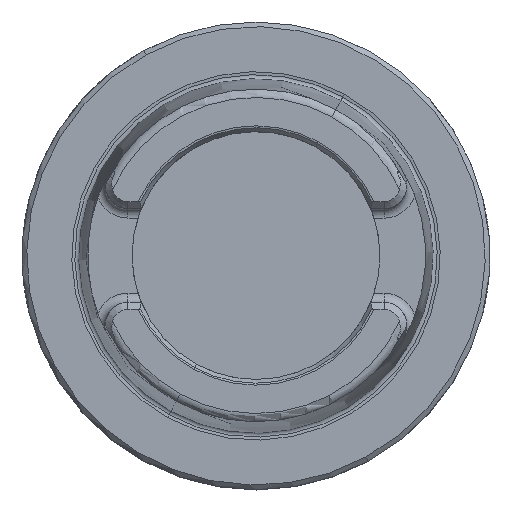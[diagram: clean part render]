
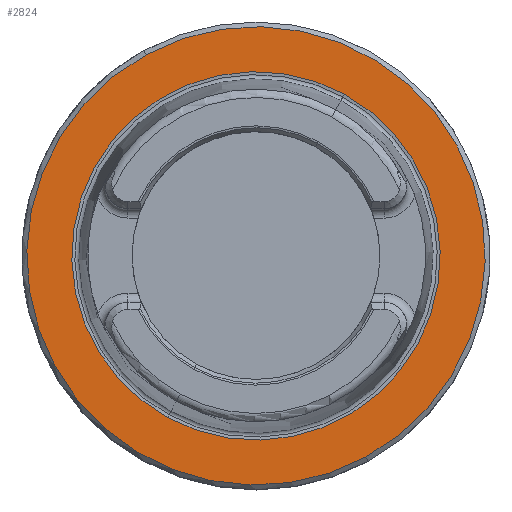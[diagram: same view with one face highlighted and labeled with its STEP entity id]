
A CAD part, top view. The second image highlights one B-rep face of the part: STEP entity #2824.
In plain terms, the highlighted planar face has unit normal (0, 0, 1).
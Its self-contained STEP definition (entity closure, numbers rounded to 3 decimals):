
#2754=AXIS2_PLACEMENT_3D('Circle Axis2P3D',#2752,#2753,$) ;
#2774=AXIS2_PLACEMENT_3D('Circle Axis2P3D',#2772,#2773,$) ;
#2800=AXIS2_PLACEMENT_3D('Plane Axis2P3D',#2797,#2798,#2799) ;
#2808=AXIS2_PLACEMENT_3D('Circle Axis2P3D',#2806,#2807,$) ;
#2817=AXIS2_PLACEMENT_3D('Circle Axis2P3D',#2815,#2816,$) ;
#2749=CARTESIAN_POINT('Vertex',(23.492,-43.002,0.)) ;
#2752=CARTESIAN_POINT('Axis2P3D Location',(0.,0.,0.)) ;
#2756=CARTESIAN_POINT('Vertex',(-23.492,43.002,0.)) ;
#2772=CARTESIAN_POINT('Axis2P3D Location',(0.,0.,0.)) ;
#2797=CARTESIAN_POINT('Axis2P3D Location',(0.,-38.285,0.)) ;
#2806=CARTESIAN_POINT('Axis2P3D Location',(0.,0.,0.)) ;
#2810=CARTESIAN_POINT('Vertex',(18.88,34.56,0.)) ;
#2812=CARTESIAN_POINT('Vertex',(-18.88,-34.56,0.)) ;
#2815=CARTESIAN_POINT('Axis2P3D Location',(0.,0.,0.)) ;
#2753=DIRECTION('Axis2P3D Direction',(0.,0.,-1.)) ;
#2773=DIRECTION('Axis2P3D Direction',(0.,0.,-1.)) ;
#2798=DIRECTION('Axis2P3D Direction',(0.,0.,-1.)) ;
#2799=DIRECTION('Axis2P3D XDirection',(-1.,0.,0.)) ;
#2807=DIRECTION('Axis2P3D Direction',(0.,0.,-1.)) ;
#2816=DIRECTION('Axis2P3D Direction',(0.,0.,-1.)) ;
#2803=ORIENTED_EDGE('',*,*,#2758,.F.) ;
#2804=ORIENTED_EDGE('',*,*,#2776,.F.) ;
#2821=ORIENTED_EDGE('',*,*,#2814,.T.) ;
#2822=ORIENTED_EDGE('',*,*,#2819,.T.) ;
#2823=FACE_BOUND('',#2820,.T.) ;
#2824=ADVANCED_FACE('NO_CUT',(#2805,#2823),#2801,.F.) ;
#2755=CIRCLE('generated circle',#2754,49.) ;
#2775=CIRCLE('generated circle',#2774,49.) ;
#2809=CIRCLE('generated circle',#2808,39.381) ;
#2818=CIRCLE('generated circle',#2817,39.381) ;
#2758=EDGE_CURVE('',#2750,#2757,#2755,.T.) ;
#2776=EDGE_CURVE('',#2757,#2750,#2775,.T.) ;
#2814=EDGE_CURVE('',#2811,#2813,#2809,.T.) ;
#2819=EDGE_CURVE('',#2813,#2811,#2818,.T.) ;
#2802=EDGE_LOOP('',(#2803,#2804)) ;
#2820=EDGE_LOOP('',(#2821,#2822)) ;
#2805=FACE_OUTER_BOUND('',#2802,.T.) ;
#2801=PLANE('',#2800) ;
#2750=VERTEX_POINT('',#2749) ;
#2757=VERTEX_POINT('',#2756) ;
#2811=VERTEX_POINT('',#2810) ;
#2813=VERTEX_POINT('',#2812) ;
